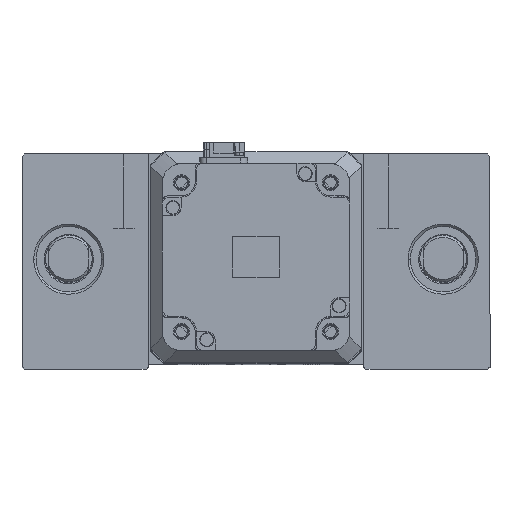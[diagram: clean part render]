
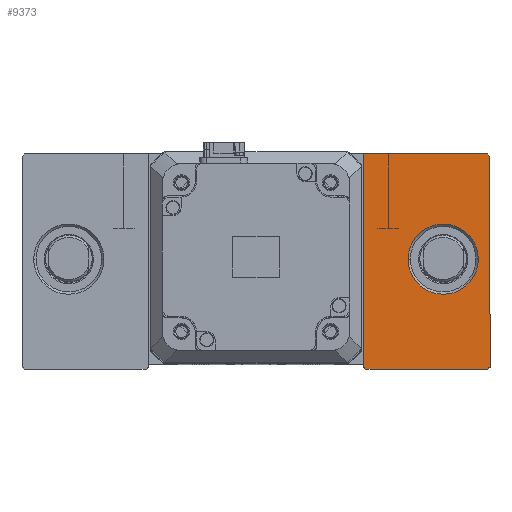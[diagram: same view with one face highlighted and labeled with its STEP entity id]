
A CAD part, top view. The second image highlights one B-rep face of the part: STEP entity #9373.
In plain terms, the highlighted planar face has unit normal (0, 0, 1).
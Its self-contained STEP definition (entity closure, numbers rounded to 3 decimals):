
#413 = CARTESIAN_POINT ( 'NONE',  ( 100., -46., 35. ) ) ;
#498 = EDGE_CURVE ( 'NONE', #42555, #51757, #41286, .T. ) ;
#584 = EDGE_CURVE ( 'NONE', #30145, #42555, #3235, .T. ) ;
#1069 = DIRECTION ( 'NONE',  ( -0.707, 0.707, 0. ) ) ;
#1515 = ORIENTED_EDGE ( 'NONE', *, *, #22260, .T. ) ;
#2120 = ORIENTED_EDGE ( 'NONE', *, *, #50331, .T. ) ;
#3235 = LINE ( 'NONE', #35220, #34645 ) ;
#3563 = ORIENTED_EDGE ( 'NONE', *, *, #20215, .T. ) ;
#4274 = VECTOR ( 'NONE', #26817, 1000. ) ;
#4593 = DIRECTION ( 'NONE',  ( -1., 0., 0. ) ) ;
#5259 = CARTESIAN_POINT ( 'NONE',  ( 80., 0., 35. ) ) ;
#5407 = DIRECTION ( 'NONE',  ( 0., 1., 0. ) ) ;
#6272 = LINE ( 'NONE', #22425, #17620 ) ;
#6557 = DIRECTION ( 'NONE',  ( 1., 0., 0. ) ) ;
#7451 = ORIENTED_EDGE ( 'NONE', *, *, #584, .T. ) ;
#9223 = EDGE_LOOP ( 'NONE', ( #52171, #46341 ) ) ;
#9373 = ADVANCED_FACE ( 'NONE', ( #21986, #11949 ), #49099, .T. ) ;
#9574 = DIRECTION ( 'NONE',  ( 1., 0., 0. ) ) ;
#9794 = CARTESIAN_POINT ( 'NONE',  ( 99., 45., 35. ) ) ;
#11196 = LINE ( 'NONE', #31748, #35262 ) ;
#11790 = DIRECTION ( 'NONE',  ( 0.707, 0.707, 0. ) ) ;
#11924 = VERTEX_POINT ( 'NONE', #54681 ) ;
#11949 = FACE_OUTER_BOUND ( 'NONE', #28013, .T. ) ;
#11980 = CARTESIAN_POINT ( 'NONE',  ( 80., 0., 35. ) ) ;
#13164 = CARTESIAN_POINT ( 'NONE',  ( 46., 45., 35. ) ) ;
#13991 = VECTOR ( 'NONE', #11790, 1000. ) ;
#14380 = EDGE_CURVE ( 'NONE', #51757, #37604, #15615, .T. ) ;
#15241 = AXIS2_PLACEMENT_3D ( 'NONE', #27843, #32127, #6557 ) ;
#15615 = LINE ( 'NONE', #26623, #4274 ) ;
#16270 = DIRECTION ( 'NONE',  ( 1., 0., 0. ) ) ;
#16737 = CARTESIAN_POINT ( 'NONE',  ( 46., 45., 35. ) ) ;
#16933 = DIRECTION ( 'NONE',  ( 0.707, -0.707, 0. ) ) ;
#17620 = VECTOR ( 'NONE', #5407, 1000. ) ;
#17952 = CARTESIAN_POINT ( 'NONE',  ( 99., -47., 35. ) ) ;
#20215 = EDGE_CURVE ( 'NONE', #11924, #36791, #11196, .T. ) ;
#21986 = FACE_BOUND ( 'NONE', #9223, .T. ) ;
#22260 = EDGE_CURVE ( 'NONE', #44791, #30145, #6272, .T. ) ;
#22425 = CARTESIAN_POINT ( 'NONE',  ( 100., 45., 35. ) ) ;
#25025 = EDGE_CURVE ( 'NONE', #38552, #37165, #27875, .T. ) ;
#26623 = CARTESIAN_POINT ( 'NONE',  ( 46., 45., 35. ) ) ;
#26817 = DIRECTION ( 'NONE',  ( 0., -1., 0. ) ) ;
#27843 = CARTESIAN_POINT ( 'NONE',  ( 0., 0., 35. ) ) ;
#27875 = CIRCLE ( 'NONE', #35400, 15. ) ;
#28013 = EDGE_LOOP ( 'NONE', ( #38761, #37701, #3563, #2120, #1515, #7451, #50699 ) ) ;
#29376 = LINE ( 'NONE', #45732, #13991 ) ;
#29606 = AXIS2_PLACEMENT_3D ( 'NONE', #11980, #41817, #16270 ) ;
#30145 = VERTEX_POINT ( 'NONE', #36979 ) ;
#31748 = CARTESIAN_POINT ( 'NONE',  ( 46., -47., 35. ) ) ;
#32127 = DIRECTION ( 'NONE',  ( 0., 0., 1. ) ) ;
#33267 = VECTOR ( 'NONE', #16933, 1000. ) ;
#33918 = CARTESIAN_POINT ( 'NONE',  ( 0., 0., 35. ) ) ;
#34645 = VECTOR ( 'NONE', #1069, 1000. ) ;
#35150 = DIRECTION ( 'NONE',  ( 0., 0., -1. ) ) ;
#35220 = CARTESIAN_POINT ( 'NONE',  ( 72., 72., 35. ) ) ;
#35262 = VECTOR ( 'NONE', #44423, 1000. ) ;
#35400 = AXIS2_PLACEMENT_3D ( 'NONE', #5259, #35150, #9574 ) ;
#35993 = EDGE_CURVE ( 'NONE', #37604, #11924, #44580, .T. ) ;
#36791 = VERTEX_POINT ( 'NONE', #17952 ) ;
#36979 = CARTESIAN_POINT ( 'NONE',  ( 100., 44., 35. ) ) ;
#37165 = VERTEX_POINT ( 'NONE', #50563 ) ;
#37604 = VERTEX_POINT ( 'NONE', #53525 ) ;
#37701 = ORIENTED_EDGE ( 'NONE', *, *, #35993, .T. ) ;
#38552 = VERTEX_POINT ( 'NONE', #39130 ) ;
#38761 = ORIENTED_EDGE ( 'NONE', *, *, #14380, .T. ) ;
#39130 = CARTESIAN_POINT ( 'NONE',  ( 95., 0., 35. ) ) ;
#41286 = LINE ( 'NONE', #13164, #51326 ) ;
#41817 = DIRECTION ( 'NONE',  ( 0., 0., -1. ) ) ;
#42555 = VERTEX_POINT ( 'NONE', #9794 ) ;
#44423 = DIRECTION ( 'NONE',  ( 1., 0., 0. ) ) ;
#44580 = LINE ( 'NONE', #33918, #33267 ) ;
#44791 = VERTEX_POINT ( 'NONE', #413 ) ;
#45732 = CARTESIAN_POINT ( 'NONE',  ( 73., -73., 35. ) ) ;
#46341 = ORIENTED_EDGE ( 'NONE', *, *, #50337, .T. ) ;
#46725 = CIRCLE ( 'NONE', #29606, 15. ) ;
#49099 = PLANE ( 'NONE',  #15241 ) ;
#50331 = EDGE_CURVE ( 'NONE', #36791, #44791, #29376, .T. ) ;
#50337 = EDGE_CURVE ( 'NONE', #37165, #38552, #46725, .T. ) ;
#50563 = CARTESIAN_POINT ( 'NONE',  ( 65., 0., 35. ) ) ;
#50699 = ORIENTED_EDGE ( 'NONE', *, *, #498, .T. ) ;
#51326 = VECTOR ( 'NONE', #4593, 1000. ) ;
#51757 = VERTEX_POINT ( 'NONE', #16737 ) ;
#52171 = ORIENTED_EDGE ( 'NONE', *, *, #25025, .T. ) ;
#53525 = CARTESIAN_POINT ( 'NONE',  ( 46., -46., 35. ) ) ;
#54681 = CARTESIAN_POINT ( 'NONE',  ( 47., -47., 35. ) ) ;
